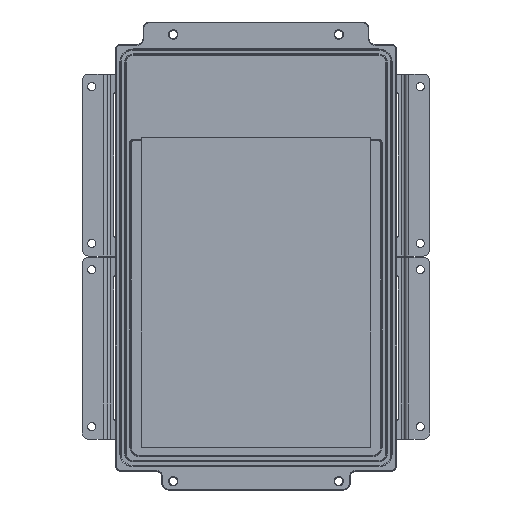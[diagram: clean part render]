
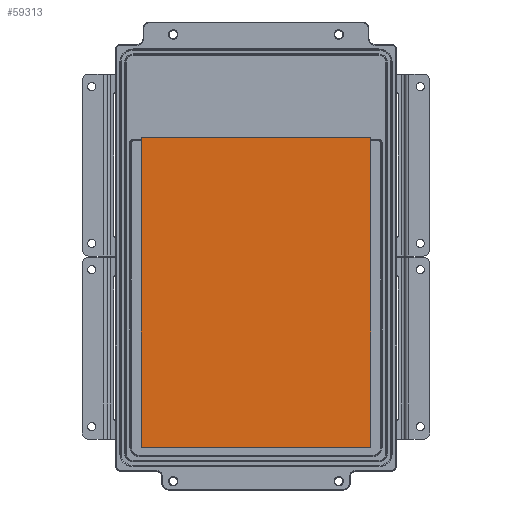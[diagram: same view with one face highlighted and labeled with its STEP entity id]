
A CAD part, front view. The second image highlights one B-rep face of the part: STEP entity #59313.
In plain terms, the highlighted planar face has unit normal (0, -1, 0).
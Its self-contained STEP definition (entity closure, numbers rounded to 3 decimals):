
#1884 = LINE ( 'NONE', #103086, #95924 ) ;
#3731 = CARTESIAN_POINT ( 'NONE',  ( 93.5, -29.5, -151. ) ) ;
#4134 = ORIENTED_EDGE ( 'NONE', *, *, #15731, .F. ) ;
#6232 = AXIS2_PLACEMENT_3D ( 'NONE', #49255, #49806, #108550 ) ;
#6463 = CARTESIAN_POINT ( 'NONE',  ( -89.5, -29.5, -151. ) ) ;
#11814 = DIRECTION ( 'NONE',  ( 1., 0., 0. ) ) ;
#14402 = LINE ( 'NONE', #6463, #74423 ) ;
#15731 = EDGE_CURVE ( 'NONE', #101241, #86323, #46216, .T. ) ;
#18288 = CARTESIAN_POINT ( 'NONE',  ( -89.5, -29.5, 96. ) ) ;
#21443 = CARTESIAN_POINT ( 'NONE',  ( -89.5, -29.5, 96. ) ) ;
#24315 = PLANE ( 'NONE',  #6232 ) ;
#26767 = CARTESIAN_POINT ( 'NONE',  ( 93.5, -29.5, -151. ) ) ;
#31023 = CARTESIAN_POINT ( 'NONE',  ( 93.5, -29.5, 96. ) ) ;
#35868 = DIRECTION ( 'NONE',  ( 0., 0., 1. ) ) ;
#37869 = VECTOR ( 'NONE', #11814, 1000. ) ;
#41333 = VECTOR ( 'NONE', #98146, 1000. ) ;
#42153 = VERTEX_POINT ( 'NONE', #31023 ) ;
#46216 = LINE ( 'NONE', #3731, #41333 ) ;
#48077 = ORIENTED_EDGE ( 'NONE', *, *, #99060, .F. ) ;
#49255 = CARTESIAN_POINT ( 'NONE',  ( 93.5, -29.5, -151. ) ) ;
#49806 = DIRECTION ( 'NONE',  ( 0., 1., 0. ) ) ;
#56766 = ORIENTED_EDGE ( 'NONE', *, *, #104806, .T. ) ;
#59313 = ADVANCED_FACE ( 'NONE', ( #107439 ), #24315, .F. ) ;
#64718 = ORIENTED_EDGE ( 'NONE', *, *, #86419, .F. ) ;
#74423 = VECTOR ( 'NONE', #76543, 1000. ) ;
#76543 = DIRECTION ( 'NONE',  ( 0., 0., 1. ) ) ;
#79084 = CARTESIAN_POINT ( 'NONE',  ( -89.5, -29.5, -151. ) ) ;
#86323 = VERTEX_POINT ( 'NONE', #79084 ) ;
#86419 = EDGE_CURVE ( 'NONE', #106246, #42153, #107327, .T. ) ;
#95924 = VECTOR ( 'NONE', #35868, 1000. ) ;
#98146 = DIRECTION ( 'NONE',  ( -1., 0., 0. ) ) ;
#99060 = EDGE_CURVE ( 'NONE', #86323, #106246, #14402, .T. ) ;
#101241 = VERTEX_POINT ( 'NONE', #26767 ) ;
#103086 = CARTESIAN_POINT ( 'NONE',  ( 93.5, -29.5, -151. ) ) ;
#104806 = EDGE_CURVE ( 'NONE', #101241, #42153, #1884, .T. ) ;
#106246 = VERTEX_POINT ( 'NONE', #18288 ) ;
#107327 = LINE ( 'NONE', #21443, #37869 ) ;
#107439 = FACE_OUTER_BOUND ( 'NONE', #108226, .T. ) ;
#108226 = EDGE_LOOP ( 'NONE', ( #56766, #64718, #48077, #4134 ) ) ;
#108550 = DIRECTION ( 'NONE',  ( 0., 0., -1. ) ) ;
